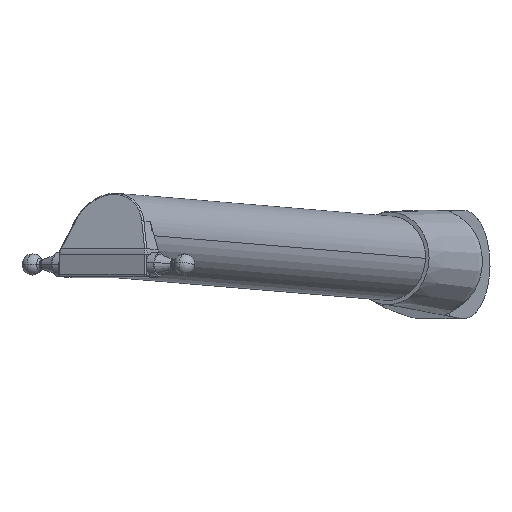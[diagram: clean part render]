
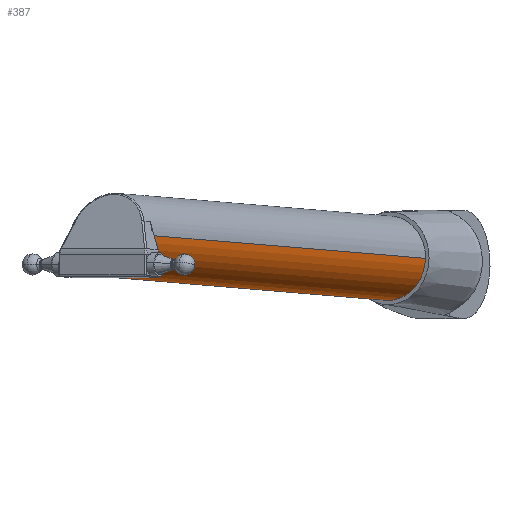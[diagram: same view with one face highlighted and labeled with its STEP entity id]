
A CAD part, front view. The second image highlights one B-rep face of the part: STEP entity #387.
In plain terms, the highlighted cylindrical face has radius 25 mm (diameter 50 mm), a partial arc.
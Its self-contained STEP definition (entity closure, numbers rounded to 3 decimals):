
#12 = VERTEX_POINT ( 'NONE', #298 ) ;
#101 = DIRECTION ( 'NONE',  ( -0.866, 0.5, 0. ) ) ;
#110 = CIRCLE ( 'NONE', #4139, 25. ) ;
#159 = EDGE_CURVE ( 'NONE', #3017, #855, #705, .T. ) ;
#267 = CARTESIAN_POINT ( 'NONE',  ( -249916.668, -432868.372, 20746.151 ) ) ;
#278 = CIRCLE ( 'NONE', #2589, 25. ) ;
#298 = CARTESIAN_POINT ( 'NONE',  ( -165.361, -236.42, -86.354 ) ) ;
#372 = CARTESIAN_POINT ( 'NONE',  ( -249938.318, -432855.872, 20746.151 ) ) ;
#387 = ADVANCED_FACE ( 'NONE', ( #2613 ), #3150, .T. ) ;
#429 = CARTESIAN_POINT ( 'NONE',  ( -305.887, -529.818, -72.828 ) ) ;
#538 = CIRCLE ( 'NONE', #2991, 25. ) ;
#563 = CARTESIAN_POINT ( 'NONE',  ( -284.236, -542.318, -72.828 ) ) ;
#580 = DIRECTION ( 'NONE',  ( 0.5, 0.865, -0.042 ) ) ;
#612 = DIRECTION ( 'NONE',  ( 0.866, -0.5, 0. ) ) ;
#705 = LINE ( 'NONE', #3339, #2723 ) ;
#786 = DIRECTION ( 'NONE',  ( 0.5, 0.865, -0.042 ) ) ;
#855 = VERTEX_POINT ( 'NONE', #2122 ) ;
#981 = EDGE_CURVE ( 'NONE', #855, #12, #538, .T. ) ;
#1102 = CARTESIAN_POINT ( 'NONE',  ( -306.408, -530.72, -97.806 ) ) ;
#1322 = VECTOR ( 'NONE', #786, 1000. ) ;
#1525 = EDGE_CURVE ( 'NONE', #2624, #3017, #278, .T. ) ;
#1541 = DIRECTION ( 'NONE',  ( 0.021, 0.036, 0.999 ) ) ;
#1581 = EDGE_CURVE ( 'NONE', #2741, #12, #1791, .T. ) ;
#1585 = ORIENTED_EDGE ( 'NONE', *, *, #1581, .T. ) ;
#1722 = DIRECTION ( 'NONE',  ( -0.5, -0.865, 0.042 ) ) ;
#1791 = LINE ( 'NONE', #372, #1322 ) ;
#2122 = CARTESIAN_POINT ( 'NONE',  ( -122.06, -261.42, -86.354 ) ) ;
#2589 = AXIS2_PLACEMENT_3D ( 'NONE', #429, #1722, #101 ) ;
#2613 = FACE_OUTER_BOUND ( 'NONE', #4081, .T. ) ;
#2624 = VERTEX_POINT ( 'NONE', #1102 ) ;
#2723 = VECTOR ( 'NONE', #2737, 1000. ) ;
#2728 = AXIS2_PLACEMENT_3D ( 'NONE', #267, #2936, #612 ) ;
#2737 = DIRECTION ( 'NONE',  ( 0.5, 0.865, -0.042 ) ) ;
#2741 = VERTEX_POINT ( 'NONE', #2966 ) ;
#2903 = CARTESIAN_POINT ( 'NONE',  ( -143.71, -248.92, -86.354 ) ) ;
#2936 = DIRECTION ( 'NONE',  ( 0.5, 0.865, -0.042 ) ) ;
#2943 = DIRECTION ( 'NONE',  ( -0.866, 0.5, 0. ) ) ;
#2947 = ORIENTED_EDGE ( 'NONE', *, *, #1525, .F. ) ;
#2966 = CARTESIAN_POINT ( 'NONE',  ( -327.538, -517.318, -72.828 ) ) ;
#2991 = AXIS2_PLACEMENT_3D ( 'NONE', #2903, #580, #1541 ) ;
#3017 = VERTEX_POINT ( 'NONE', #563 ) ;
#3150 = CYLINDRICAL_SURFACE ( 'NONE', #2728, 25. ) ;
#3339 = CARTESIAN_POINT ( 'NONE',  ( -249895.017, -432880.872, 20746.151 ) ) ;
#3608 = ORIENTED_EDGE ( 'NONE', *, *, #3825, .F. ) ;
#3825 = EDGE_CURVE ( 'NONE', #2741, #2624, #110, .T. ) ;
#3936 = CARTESIAN_POINT ( 'NONE',  ( -305.887, -529.818, -72.828 ) ) ;
#4081 = EDGE_LOOP ( 'NONE', ( #3608, #1585, #4199, #4295, #2947 ) ) ;
#4139 = AXIS2_PLACEMENT_3D ( 'NONE', #3936, #4194, #2943 ) ;
#4194 = DIRECTION ( 'NONE',  ( -0.5, -0.865, 0.042 ) ) ;
#4199 = ORIENTED_EDGE ( 'NONE', *, *, #981, .F. ) ;
#4295 = ORIENTED_EDGE ( 'NONE', *, *, #159, .F. ) ;
